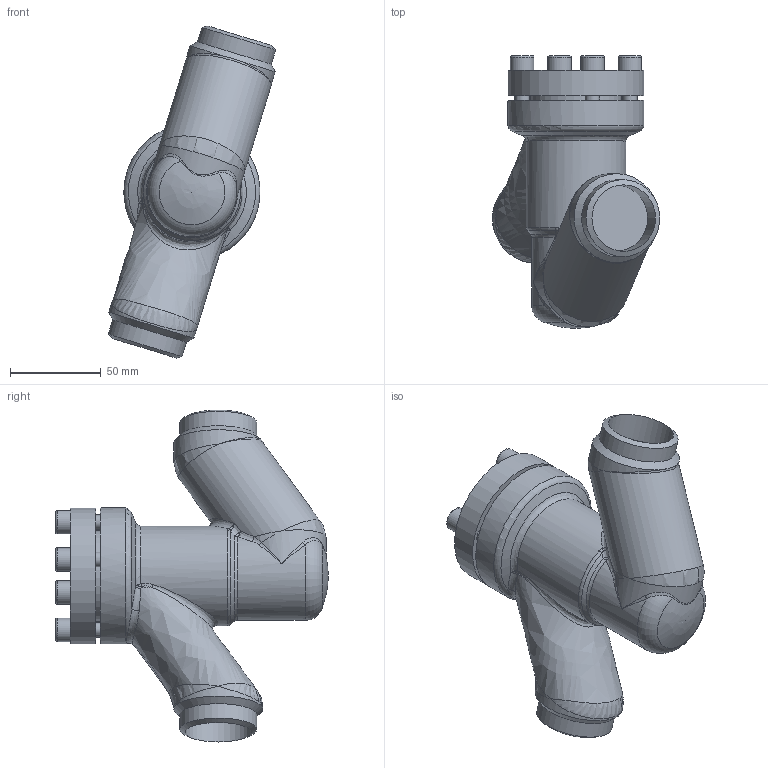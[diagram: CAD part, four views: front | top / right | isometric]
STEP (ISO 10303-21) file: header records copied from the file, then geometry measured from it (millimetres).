
FILE_DESCRIPTION(/* description */ (''),/* implementation_level */ '2;1');
FILE_NAME(/* name */ 'C:\Users\Jacob.Er\Desktop\52G00C13A5AX0000.stp',/* time_stamp */ '2014-12-19T10:59:57+01:00',/* author */ ('Jacob.Er'),/* organization */ (''),/* preprocessor_version */ 'ST-DEVELOPER v15.6',/* originating_system */ 'Autodesk Inventor 2015',/* authorisation */ '');
FILE_SCHEMA (('AUTOMOTIVE_DESIGN { 1 0 10303 214 3 1 1 }'));
Length unit declared in the file: millimetre
Products named in the file (4): 16G00E13.5034004; 52G00E13.5141004; DIN 912 - M8 x 1,25 x 25 x 21,875; 52G00C13A5AX0000
Assembly tree (6 placements, depth 2):
  52G00C13A5AX0000
    16G00E13.5034004
    52G00E13.5141004
    DIN 912 - M8 x 1,25 x 25 x 21,875  x4
Bounding box: 92.16 x 150 x 182.84 mm (x, y, z)
Volume: 448793.9 mm3; surface area: 91643.2 mm2
Topology: 6 solids, 6 shells, 172 faces, 406 edges, 241 vertices
Faces by surface type: plane 49, cylinder 41, bspline 38, cone 25, torus 17, sphere 2
Full cylindrical faces by diameter (mm): 6.647 x4, 8 x4, 9 x4, 13 x4, 32 x1, 36 x2, 36.6 x2, 40.987 x1, 42.4 x2, 43 x3, 48 x1, 49 x2, 50 x2, 54.987 x1, 75 x2
Entity records: 5109 total; most frequent: CARTESIAN_POINT 2640, ORIENTED_EDGE 452, DIRECTION 438, EDGE_CURVE 226, AXIS2_PLACEMENT_3D 212, EDGE_LOOP 196, VERTEX_POINT 166, FACE_OUTER_BOUND 127
